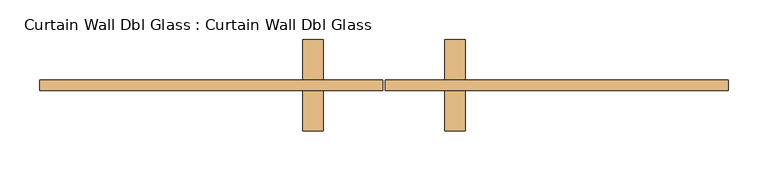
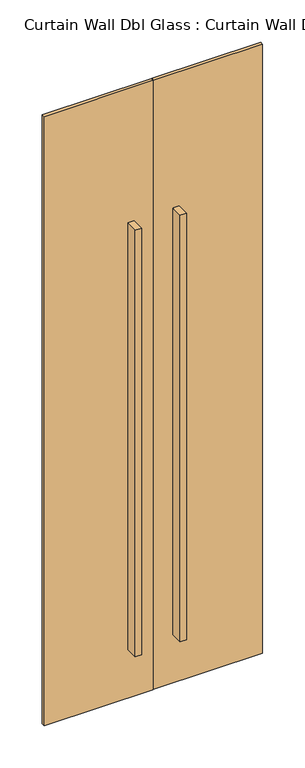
"""IFC4 building model written with IfcOpenShell, lengths in millimetres: door geometry, Curtain Wall Dbl Glass : Curtain Wall Dbl Glass."""

from ifc_helpers import new_model, si_unit, frame, origin, origin_with_axes, place, context, project, spatial, polyline, outline, extrude, source, transform, mapped, element, save


def curtain_wall_dbl_glass_curtain_wall_dbl_glass_ad4eb2cc(model_context):
    return source(origin(), model_context, "Body", "SweptSolid", [
        extrude(outline(polyline([(-76.2, -12.7), (-101.6, -12.7), (-101.6, 38.1), (-76.2, 38.1), (-76.2, -12.7)])), frame((0.0, 0.0, 203.2), z_axis=(0.0, 0.0, 1.0), x_axis=(1.0, 0.0, 0.0)), (0.0, 0.0, 1.0), 1778.0),
        extrude(outline(polyline([(-101.6, 101.6), (-76.2, 101.6), (-76.2, 50.8), (-101.6, 50.8), (-101.6, 101.6)])), frame((0.0, 0.0, 203.2), z_axis=(0.0, 0.0, 1.0), x_axis=(1.0, 0.0, 0.0)), (0.0, 0.0, 1.0), 1778.0),
        extrude(outline(polyline([(101.6, -12.7), (76.2, -12.7), (76.2, 38.1), (101.6, 38.1), (101.6, -12.7)])), frame((0.0, 0.0, 203.2), z_axis=(0.0, 0.0, 1.0), x_axis=(1.0, 0.0, 0.0)), (0.0, 0.0, 1.0), 1778.0),
        extrude(outline(polyline([(76.2, 101.6), (101.6, 101.6), (101.6, 50.8), (76.2, 50.8), (76.2, 101.6)])), frame((0.0, 0.0, 203.2), z_axis=(0.0, 0.0, 1.0), x_axis=(1.0, 0.0, 0.0)), (0.0, 0.0, 1.0), 1778.0),
        extrude(outline(polyline([(-1.5875, 38.1), (-431.3875023, 38.1), (-431.3875023, 50.8), (-1.5875, 50.8), (-1.5875, 38.1)])), origin_with_axes(), (0.0, 0.0, 1.0), 2540.0),
        extrude(outline(polyline([(431.3875023, 38.1), (1.5875, 38.1), (1.5875, 50.8), (431.3875023, 50.8), (431.3875023, 38.1)])), origin_with_axes(), (0.0, 0.0, 1.0), 2540.0),
    ])


if __name__ == "__main__":
    model = new_model("IFC4")
    model_context = context("Model", 3, world=origin())
    ifc_project = project(units=[si_unit("LENGTHUNIT", "METRE", prefix="MILLI")], contexts=[model_context])
    site = spatial("IfcSite", under=ifc_project)
    building = spatial("IfcBuilding", under=site)
    placement = place(None, origin())
    curtain_wall_dbl_glass_curtain_wall_dbl_glass_shape = curtain_wall_dbl_glass_curtain_wall_dbl_glass_ad4eb2cc(model_context)
    element("IfcDoor", 1, ObjectType="Curtain Wall Dbl Glass : Curtain Wall Dbl Glass", at=placement, inside=building, context=model_context, shape_type="MappedRepresentation", body=[
        mapped(curtain_wall_dbl_glass_curtain_wall_dbl_glass_shape, transform((0.0, 0.0, 0.0), x_axis=(1.0, 0.0, 0.0), y_axis=(0.0, 1.0, 0.0), z_axis=(0.0, 0.0, 1.0))),
    ])
    save(model, "model.ifc")
